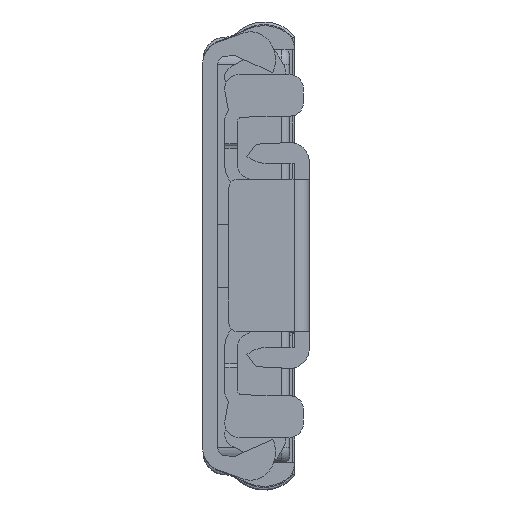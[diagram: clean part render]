
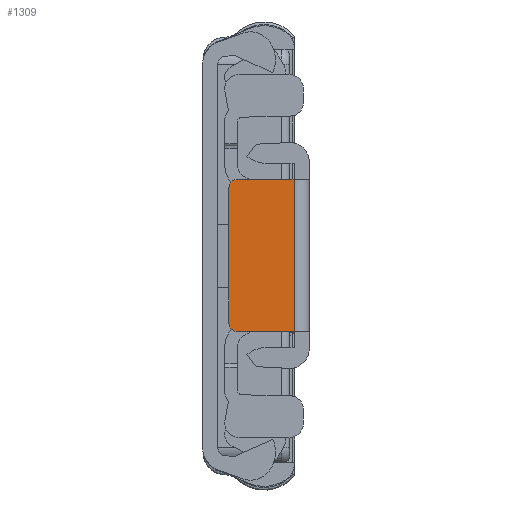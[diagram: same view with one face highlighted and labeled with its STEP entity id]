
A CAD part, front view. The second image highlights one B-rep face of the part: STEP entity #1309.
In plain terms, the highlighted planar face has unit normal (0, -1, 0).
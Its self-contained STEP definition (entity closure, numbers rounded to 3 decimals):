
#1309 = ADVANCED_FACE( '', ( #2955 ), #2956, .T. );
#2955 = FACE_OUTER_BOUND( '', #4960, .T. );
#2956 = PLANE( '', #4961 );
#4960 = EDGE_LOOP( '', ( #8823, #8824, #8825, #8826, #8827, #8828 ) );
#4961 = AXIS2_PLACEMENT_3D( '', #8829, #8830, #8831 );
#8823 = ORIENTED_EDGE( '', *, *, #13513, .T. );
#8824 = ORIENTED_EDGE( '', *, *, #13514, .T. );
#8825 = ORIENTED_EDGE( '', *, *, #13079, .T. );
#8826 = ORIENTED_EDGE( '', *, *, #13515, .T. );
#8827 = ORIENTED_EDGE( '', *, *, #13087, .T. );
#8828 = ORIENTED_EDGE( '', *, *, #13516, .T. );
#8829 = CARTESIAN_POINT( '', ( -9., -425.302, -2.366 ) );
#8830 = DIRECTION( '', ( 0., -1., 0. ) );
#8831 = DIRECTION( '', ( 0., 0., -1. ) );
#13079 = EDGE_CURVE( '', #16145, #16146, #16147, .T. );
#13087 = EDGE_CURVE( '', #16160, #16158, #16161, .T. );
#13513 = EDGE_CURVE( '', #16799, #16800, #16801, .T. );
#13514 = EDGE_CURVE( '', #16800, #16145, #16802, .T. );
#13515 = EDGE_CURVE( '', #16146, #16160, #16803, .T. );
#13516 = EDGE_CURVE( '', #16158, #16799, #16804, .T. );
#16145 = VERTEX_POINT( '', #20328 );
#16146 = VERTEX_POINT( '', #20329 );
#16147 = LINE( '', #20330, #20331 );
#16158 = VERTEX_POINT( '', #20345 );
#16160 = VERTEX_POINT( '', #20348 );
#16161 = LINE( '', #20349, #20350 );
#16799 = VERTEX_POINT( '', #21239 );
#16800 = VERTEX_POINT( '', #21240 );
#16801 = LINE( '', #21241, #21242 );
#16802 = CIRCLE( '', #21243, 1. );
#16803 = LINE( '', #21244, #21245 );
#16804 = CIRCLE( '', #21246, 1. );
#20328 = CARTESIAN_POINT( '', ( -9., -425.302, 4.8 ) );
#20329 = CARTESIAN_POINT( '', ( -9., -425.302, -1.898 ) );
#20330 = CARTESIAN_POINT( '', ( -9., -425.302, -2.366 ) );
#20331 = VECTOR( '', #24055, 1000. );
#20345 = CARTESIAN_POINT( '', ( 9., -425.302, 4.8 ) );
#20348 = CARTESIAN_POINT( '', ( 9., -425.302, -1.898 ) );
#20349 = CARTESIAN_POINT( '', ( 9., -425.302, -2.366 ) );
#20350 = VECTOR( '', #24066, 1000. );
#21239 = CARTESIAN_POINT( '', ( 8., -425.302, 5.8 ) );
#21240 = CARTESIAN_POINT( '', ( -8., -425.302, 5.8 ) );
#21241 = CARTESIAN_POINT( '', ( 9., -425.302, 5.8 ) );
#21242 = VECTOR( '', #24651, 1000. );
#21243 = AXIS2_PLACEMENT_3D( '', #24652, #24653, #24654 );
#21244 = CARTESIAN_POINT( '', ( -9., -425.302, -1.898 ) );
#21245 = VECTOR( '', #24655, 1000. );
#21246 = AXIS2_PLACEMENT_3D( '', #24656, #24657, #24658 );
#24055 = DIRECTION( '', ( 0., 0., -1. ) );
#24066 = DIRECTION( '', ( 0., 0., 1. ) );
#24651 = DIRECTION( '', ( -1., 0., 0. ) );
#24652 = CARTESIAN_POINT( '', ( -8., -425.302, 4.8 ) );
#24653 = DIRECTION( '', ( 0., -1., 0. ) );
#24654 = DIRECTION( '', ( 0., 0., -1. ) );
#24655 = DIRECTION( '', ( 1., 0., 0. ) );
#24656 = CARTESIAN_POINT( '', ( 8., -425.302, 4.8 ) );
#24657 = DIRECTION( '', ( 0., -1., 0. ) );
#24658 = DIRECTION( '', ( 0., 0., -1. ) );
